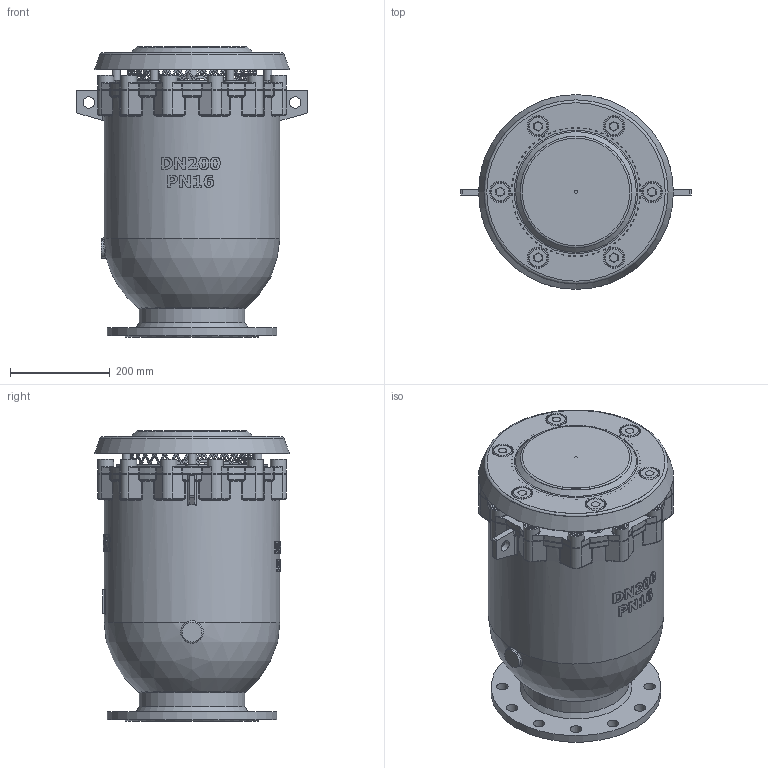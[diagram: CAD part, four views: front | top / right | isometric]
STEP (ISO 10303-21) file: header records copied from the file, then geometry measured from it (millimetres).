
FILE_DESCRIPTION(('STEP AP242'), '1');
FILE_NAME('Âîçäóøíûé êëàïàí DUOJET KX', '', ('UNSPECIFIED'), ('UNSPECIFIED'), 'C3D Converter', 'C3D Toolkit', '');
FILE_SCHEMA(('AP242_MANAGED_MODEL_BASED_3D_ENGINEERING_MIM_LF { 1 0 10303 442 1 1 4 }'));
Length unit declared in the file: millimetre
Assembly tree (45 placements, depth 2):
  (unnamed)
    (unnamed)
    (unnamed)
    (unnamed)
    (unnamed)
    (unnamed)
    (unnamed)
    (unnamed)  x6
    (unnamed)  x6
    (unnamed)
    (unnamed)
    (unnamed)
    (unnamed)  x5
    (unnamed)  x7
    (unnamed)  x6
    (unnamed)  x6
Bounding box: 462 x 390 x 582 mm (x, y, z)
Volume: 8708450.9 mm3; surface area: 3671843.4 mm2
Topology: 59 solids, 60 shells, 2086 faces, 5369 edges, 3449 vertices
Faces by surface type: plane 730, cylinder 508, bspline 495, extrusion 151, torus 107, cone 82, sphere 13
Full cylindrical faces by diameter (mm): 6 x3, 9 x2, 10 x18, 10.5 x6, 11 x12, 12 x6, 16 x54, 22.883 x2, 23 x12, 24 x12, 25.6 x12, 30 x6, 32 x12, 40 x1, 41.117 x1, 50 x2, 56 x1, 200 x2, 212 x1, 256 x2, 258 x1, 265 x2, 271 x1, 288 x1, 292 x2, 304 x2, 338 x2, 340 x4, 352 x1
Entity records: 145603 total; most frequent: CARTESIAN_POINT 102287, ORIENTED_EDGE 8818, DIRECTION 6283, EDGE_CURVE 4409, VERTEX_POINT 2960, AXIS2_PLACEMENT_3D 2419, EDGE_LOOP 2219, B_SPLINE_CURVE_WITH_KNOTS 1958
